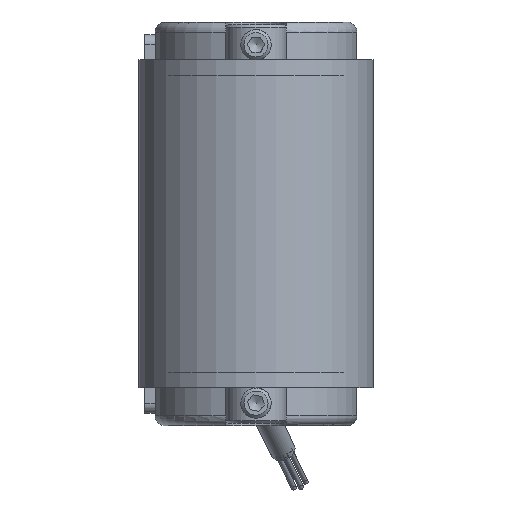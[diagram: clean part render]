
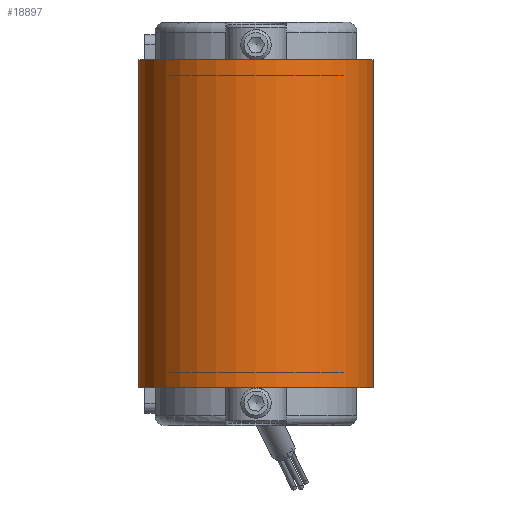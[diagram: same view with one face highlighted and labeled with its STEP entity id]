
A CAD part, front view. The second image highlights one B-rep face of the part: STEP entity #18897.
In plain terms, the highlighted cylindrical face has radius 23.3 mm (diameter 46.6 mm), a partial arc.
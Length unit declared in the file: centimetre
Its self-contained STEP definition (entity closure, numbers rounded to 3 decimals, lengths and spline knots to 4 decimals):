
#1478=FACE_OUTER_BOUND('',#2501,.T.);
#2501=EDGE_LOOP('',(#13037,#13038,#13039,#13040));
#3668=CIRCLE('',#20217,2.33);
#3671=CIRCLE('',#20223,2.33);
#4627=LINE('',#27806,#6163);
#4628=LINE('',#27810,#6164);
#6163=VECTOR('',#22807,1.);
#6164=VECTOR('',#22812,1.);
#7748=VERTEX_POINT('',#27789);
#7749=VERTEX_POINT('',#27790);
#7754=VERTEX_POINT('',#27804);
#7755=VERTEX_POINT('',#27808);
#9804=EDGE_CURVE('',#7748,#7749,#3668,.T.);
#9812=EDGE_CURVE('',#7754,#7749,#4627,.T.);
#9813=EDGE_CURVE('',#7754,#7755,#3671,.T.);
#9814=EDGE_CURVE('',#7748,#7755,#4628,.T.);
#13037=ORIENTED_EDGE('',*,*,#9813,.T.);
#13038=ORIENTED_EDGE('',*,*,#9814,.F.);
#13039=ORIENTED_EDGE('',*,*,#9804,.T.);
#13040=ORIENTED_EDGE('',*,*,#9812,.F.);
#17520=CYLINDRICAL_SURFACE('',#20222,2.33);
#18897=ADVANCED_FACE('',(#1478),#17520,.T.);
#20217=AXIS2_PLACEMENT_3D('',#27791,#22792,#22793);
#20222=AXIS2_PLACEMENT_3D('',#27807,#22808,#22809);
#20223=AXIS2_PLACEMENT_3D('',#27809,#22810,#22811);
#22792=DIRECTION('center_axis',(0.,0.,
-1.));
#22793=DIRECTION('ref_axis',(-1.,0.,0.));
#22807=DIRECTION('',(0.,0.,1.));
#22808=DIRECTION('center_axis',(0.,0.,
-1.));
#22809=DIRECTION('ref_axis',(-1.,0.,0.));
#22810=DIRECTION('center_axis',(0.,0.,
1.));
#22811=DIRECTION('ref_axis',(-1.,0.,0.));
#22812=DIRECTION('',(0.,0.,-1.));
#27789=CARTESIAN_POINT('',(2.33,-32.,3.25));
#27790=CARTESIAN_POINT('',(-2.33,-32.,3.25));
#27791=CARTESIAN_POINT('Origin',(0.,-32.,
3.25));
#27804=CARTESIAN_POINT('',(-2.33,-32.,-3.25));
#27806=CARTESIAN_POINT('',(-2.33,-32.,0.));
#27807=CARTESIAN_POINT('Origin',(0.,-32.,
0.));
#27808=CARTESIAN_POINT('',(2.33,-32.,-3.25));
#27809=CARTESIAN_POINT('Origin',(0.,-32.,
-3.25));
#27810=CARTESIAN_POINT('',(2.33,-32.,0.));
